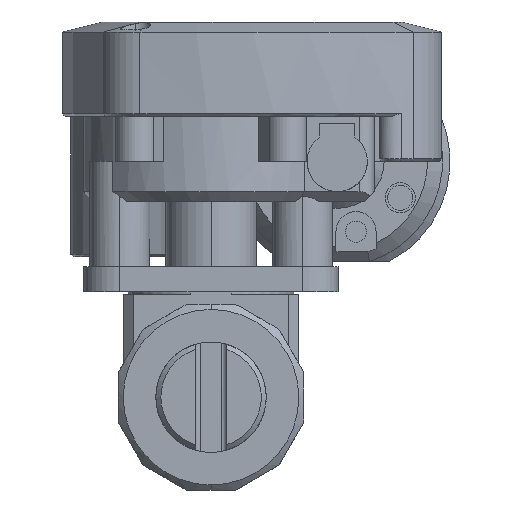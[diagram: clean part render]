
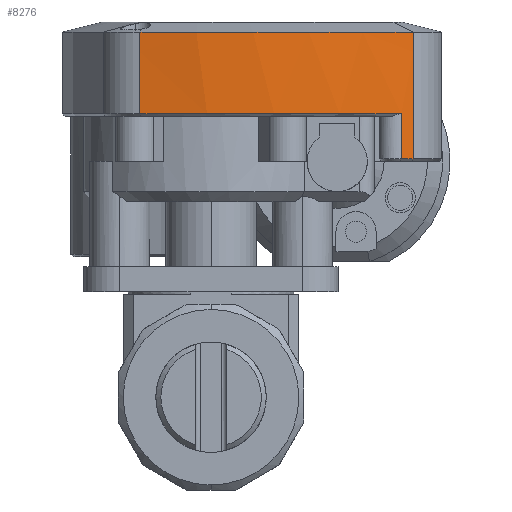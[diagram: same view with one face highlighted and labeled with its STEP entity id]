
A CAD part, left-side view. The second image highlights one B-rep face of the part: STEP entity #8276.
In plain terms, the highlighted cylindrical face has radius 80 mm (diameter 160 mm), a partial arc.
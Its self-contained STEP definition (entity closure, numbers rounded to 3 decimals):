
#1203=CARTESIAN_POINT('',(48.603,0.129,47.5));
#1204=DIRECTION('',(0.,0.,1.));
#1205=DIRECTION('',(-0.88,-0.476,0.));
#1206=AXIS2_PLACEMENT_3D('',#1203,#1204,#1205);
#1278=DIRECTION('',(0.,0.,-1.));
#1279=VECTOR('',#1278,4.);
#1280=CARTESIAN_POINT('',(-20.422,-40.314,
72.8));
#1281=LINE('',#1280,#1279);
#1282=DIRECTION('',(0.,0.,-1.));
#1283=VECTOR('',#1282,21.3);
#1284=CARTESIAN_POINT('',(-20.422,-40.314,68.8));
#1285=LINE('',#1284,#1283);
#1294=DIRECTION('',(0.,0.,-1.));
#1295=VECTOR('',#1294,4.);
#1296=CARTESIAN_POINT('',(-30.156,14.167,72.8));
#1297=LINE('',#1296,#1295);
#1298=DIRECTION('',(0.,0.,-1.));
#1299=VECTOR('',#1298,12.3);
#1300=CARTESIAN_POINT('',(-30.156,14.167,68.8));
#1301=LINE('',#1300,#1299);
#1598=CARTESIAN_POINT('',(48.603,0.129,72.8));
#1599=DIRECTION('',(0.,0.,-1.));
#1600=DIRECTION('',(-0.863,-0.506,0.));
#1601=AXIS2_PLACEMENT_3D('',#1598,#1599,#1600);
#4793=CARTESIAN_POINT('',(48.603,0.129,56.5));
#4794=DIRECTION('',(0.,0.,1.));
#4795=DIRECTION('',(-0.984,0.175,0.));
#4796=AXIS2_PLACEMENT_3D('',#4793,#4794,#4795);
#4805=DIRECTION('',(0.,0.,-1.));
#4806=VECTOR('',#4805,9.);
#4807=CARTESIAN_POINT('',(-21.766,-37.927,
56.5));
#4808=LINE('',#4807,#4806);
#6371=CARTESIAN_POINT('',(-20.422,-40.314,
72.8));
#6373=VERTEX_POINT('',#6371);
#6374=CARTESIAN_POINT('',(-30.156,14.167,68.8));
#6375=CARTESIAN_POINT('',(-30.156,14.167,56.5));
#6376=VERTEX_POINT('',#6374);
#6377=VERTEX_POINT('',#6375);
#6378=CARTESIAN_POINT('',(-20.422,-40.314,68.8));
#6379=VERTEX_POINT('',#6378);
#6380=CARTESIAN_POINT('',(-20.422,-40.314,
47.5));
#6381=VERTEX_POINT('',#6380);
#6382=CARTESIAN_POINT('',(-21.766,-37.927,
47.5));
#6383=VERTEX_POINT('',#6382);
#6384=CARTESIAN_POINT('',(-21.766,-37.927,
56.5));
#6385=VERTEX_POINT('',#6384);
#6386=CARTESIAN_POINT('',(-30.156,14.167,72.8));
#6387=VERTEX_POINT('',#6386);
#8256=CARTESIAN_POINT('',(48.603,0.129,46.994));
#8257=DIRECTION('',(0.,0.,1.));
#8258=DIRECTION('',(1.,0.,0.));
#8259=AXIS2_PLACEMENT_3D('',#8256,#8257,#8258);
#8260=CYLINDRICAL_SURFACE('',#8259,80.);
#8262=ORIENTED_EDGE('',*,*,#8261,.F.);
#8264=ORIENTED_EDGE('',*,*,#8263,.F.);
#8266=ORIENTED_EDGE('',*,*,#8265,.F.);
#8267=ORIENTED_EDGE('',*,*,#8244,.T.);
#8268=ORIENTED_EDGE('',*,*,#8242,.T.);
#8269=ORIENTED_EDGE('',*,*,#8133,.F.);
#8271=ORIENTED_EDGE('',*,*,#8270,.F.);
#8273=ORIENTED_EDGE('',*,*,#8272,.F.);
#8274=EDGE_LOOP('',(#8262,#8264,#8266,#8267,#8268,#8269,#8271,#8273));
#8275=FACE_OUTER_BOUND('',#8274,.F.);
#8276=ADVANCED_FACE('',(#8275),#8260,.T.);
#1207=CIRCLE('',#1206,80.);
#1602=CIRCLE('',#1601,80.);
#4797=CIRCLE('',#4796,80.);
#8133=EDGE_CURVE('',#6383,#6381,#1207,.T.);
#8242=EDGE_CURVE('',#6379,#6381,#1285,.T.);
#8244=EDGE_CURVE('',#6373,#6379,#1281,.T.);
#8261=EDGE_CURVE('',#6376,#6377,#1301,.T.);
#8263=EDGE_CURVE('',#6387,#6376,#1297,.T.);
#8265=EDGE_CURVE('',#6373,#6387,#1602,.T.);
#8270=EDGE_CURVE('',#6385,#6383,#4808,.T.);
#8272=EDGE_CURVE('',#6377,#6385,#4797,.T.);
